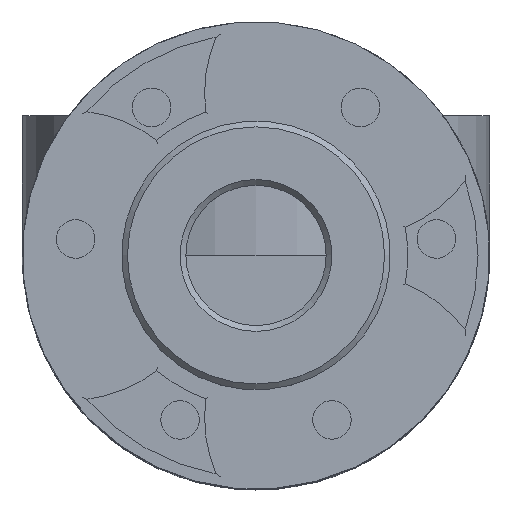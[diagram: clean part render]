
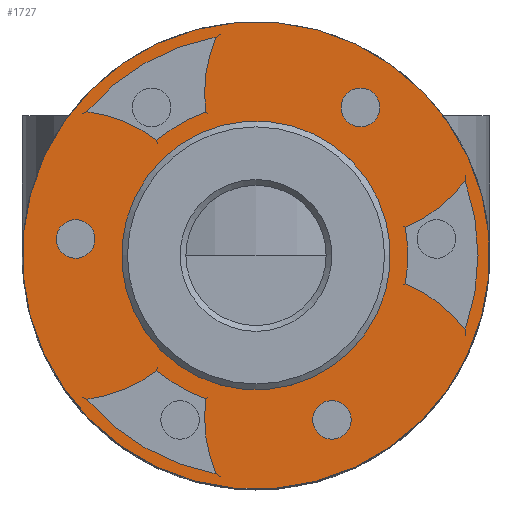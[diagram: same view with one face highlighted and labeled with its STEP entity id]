
A CAD part, top view. The second image highlights one B-rep face of the part: STEP entity #1727.
In plain terms, the highlighted planar face has unit normal (0, 0, 1) as drawn and (0, -1, 0) by its records, which use the part's own axes.
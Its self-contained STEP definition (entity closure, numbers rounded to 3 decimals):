
#1727 = ADVANCED_FACE( '', ( #2795, #2796, #2797, #2798, #2799, #2800, #2801, #2802 ), #2803, .F. );
#2795 = FACE_BOUND( '', #3422, .T. );
#2796 = FACE_BOUND( '', #3423, .T. );
#2797 = FACE_BOUND( '', #3424, .T. );
#2798 = FACE_BOUND( '', #3425, .T. );
#2799 = FACE_BOUND( '', #3426, .T. );
#2800 = FACE_BOUND( '', #3427, .T. );
#2801 = FACE_BOUND( '', #3428, .T. );
#2802 = FACE_OUTER_BOUND( '', #3429, .T. );
#2803 = PLANE( '', #3430 );
#3422 = EDGE_LOOP( '', ( #4629 ) );
#3423 = EDGE_LOOP( '', ( #4630 ) );
#3424 = EDGE_LOOP( '', ( #4631 ) );
#3425 = EDGE_LOOP( '', ( #4632 ) );
#3426 = EDGE_LOOP( '', ( #4633 ) );
#3427 = EDGE_LOOP( '', ( #4634 ) );
#3428 = EDGE_LOOP( '', ( #4635 ) );
#3429 = EDGE_LOOP( '', ( #4636 ) );
#3430 = AXIS2_PLACEMENT_3D( '', #4637, #4638, #4639 );
#4629 = ORIENTED_EDGE( '', *, *, #6235, .F. );
#4630 = ORIENTED_EDGE( '', *, *, #6236, .F. );
#4631 = ORIENTED_EDGE( '', *, *, #6237, .F. );
#4632 = ORIENTED_EDGE( '', *, *, #6238, .F. );
#4633 = ORIENTED_EDGE( '', *, *, #6239, .F. );
#4634 = ORIENTED_EDGE( '', *, *, #6240, .F. );
#4635 = ORIENTED_EDGE( '', *, *, #6241, .F. );
#4636 = ORIENTED_EDGE( '', *, *, #6232, .T. );
#4637 = CARTESIAN_POINT( '', ( 0., 0., 20. ) );
#4638 = DIRECTION( '', ( 0., 1., 0. ) );
#4639 = DIRECTION( '', ( 0., 0., 1. ) );
#6232 = EDGE_CURVE( '', #7019, #7019, #7020, .T. );
#6235 = EDGE_CURVE( '', #7025, #7025, #7026, .T. );
#6236 = EDGE_CURVE( '', #7027, #7027, #7028, .T. );
#6237 = EDGE_CURVE( '', #7029, #7029, #7030, .T. );
#6238 = EDGE_CURVE( '', #7031, #7031, #7032, .T. );
#6239 = EDGE_CURVE( '', #7033, #7033, #7034, .T. );
#6240 = EDGE_CURVE( '', #7035, #7035, #7036, .T. );
#6241 = EDGE_CURVE( '', #7037, #7037, #7038, .T. );
#7019 = VERTEX_POINT( '', #7617 );
#7020 = CIRCLE( '', #7618, 20. );
#7025 = VERTEX_POINT( '', #7623 );
#7026 = CIRCLE( '', #7624, 1.65 );
#7027 = VERTEX_POINT( '', #7625 );
#7028 = CIRCLE( '', #7626, 1.65 );
#7029 = VERTEX_POINT( '', #7627 );
#7030 = CIRCLE( '', #7628, 1.65 );
#7031 = VERTEX_POINT( '', #7629 );
#7032 = CIRCLE( '', #7630, 1.65 );
#7033 = VERTEX_POINT( '', #7631 );
#7034 = CIRCLE( '', #7632, 1.65 );
#7035 = VERTEX_POINT( '', #7633 );
#7036 = CIRCLE( '', #7634, 1.65 );
#7037 = VERTEX_POINT( '', #7635 );
#7038 = CIRCLE( '', #7636, 11.5 );
#7617 = CARTESIAN_POINT( '', ( 0., 0., -20. ) );
#7618 = AXIS2_PLACEMENT_3D( '', #8051, #8052, #8053 );
#7623 = CARTESIAN_POINT( '', ( -6.021, 0., -13.174 ) );
#7624 = AXIS2_PLACEMENT_3D( '', #8060, #8061, #8062 );
#7625 = CARTESIAN_POINT( '', ( 6.925, 0., -11.994 ) );
#7626 = AXIS2_PLACEMENT_3D( '', #8063, #8064, #8065 );
#7627 = CARTESIAN_POINT( '', ( 14.42, 0., 1.372 ) );
#7628 = AXIS2_PLACEMENT_3D( '', #8066, #8067, #8068 );
#7629 = CARTESIAN_POINT( '', ( 6.925, 0., 11.994 ) );
#7630 = AXIS2_PLACEMENT_3D( '', #8069, #8070, #8071 );
#7631 = CARTESIAN_POINT( '', ( -8.398, 0., 11.802 ) );
#7632 = AXIS2_PLACEMENT_3D( '', #8072, #8073, #8074 );
#7633 = CARTESIAN_POINT( '', ( -13.85, 0., 0. ) );
#7634 = AXIS2_PLACEMENT_3D( '', #8075, #8076, #8077 );
#7635 = CARTESIAN_POINT( '', ( 0., 0., -11.5 ) );
#7636 = AXIS2_PLACEMENT_3D( '', #8078, #8079, #8080 );
#8051 = CARTESIAN_POINT( '', ( 0., 0., 0. ) );
#8052 = DIRECTION( '', ( 0., -1., 0. ) );
#8053 = DIRECTION( '', ( 0., 0., -1. ) );
#8060 = CARTESIAN_POINT( '', ( -5.196, 0., -14.603 ) );
#8061 = DIRECTION( '', ( 0., -1., 0. ) );
#8062 = DIRECTION( '', ( -0.5, 0., 0.866 ) );
#8063 = CARTESIAN_POINT( '', ( 7.75, 0., -13.423 ) );
#8064 = DIRECTION( '', ( 0., -1., 0. ) );
#8065 = DIRECTION( '', ( -0.5, 0., 0.866 ) );
#8066 = CARTESIAN_POINT( '', ( 15.245, 0., 2.801 ) );
#8067 = DIRECTION( '', ( 0., -1., 0. ) );
#8068 = DIRECTION( '', ( -0.5, 0., -0.866 ) );
#8069 = CARTESIAN_POINT( '', ( 7.75, 0., 13.423 ) );
#8070 = DIRECTION( '', ( 0., -1., 0. ) );
#8071 = DIRECTION( '', ( -0.5, 0., -0.866 ) );
#8072 = CARTESIAN_POINT( '', ( -10.048, 0., 11.802 ) );
#8073 = DIRECTION( '', ( 0., -1., 0. ) );
#8074 = DIRECTION( '', ( 1., 0., 0. ) );
#8075 = CARTESIAN_POINT( '', ( -15.5, 0., 0. ) );
#8076 = DIRECTION( '', ( 0., -1., 0. ) );
#8077 = DIRECTION( '', ( 1., 0., 0. ) );
#8078 = CARTESIAN_POINT( '', ( 0., 0., 0. ) );
#8079 = DIRECTION( '', ( 0., -1., 0. ) );
#8080 = DIRECTION( '', ( 0., 0., -1. ) );
